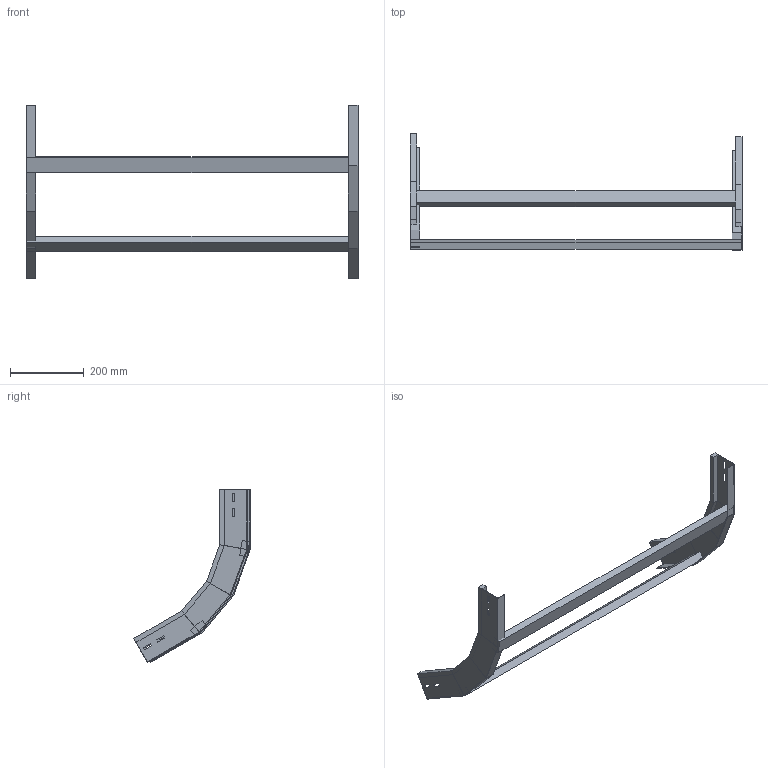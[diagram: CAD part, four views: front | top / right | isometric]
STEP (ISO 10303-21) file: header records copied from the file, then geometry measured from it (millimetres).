
FILE_DESCRIPTION (( 'STEP AP214' ), '1' );
FILE_NAME ('A2X40B3C900XX.step', '2025-04-02T09:36:49', ( '' ), ( '' ), 'SwSTEP 2.0', 'SolidWorks 2023', '' );
FILE_SCHEMA (( 'AUTOMOTIVE_DESIGN' ));
Length unit declared in the file: millimetre
Products named in the file (3): LONGH.SALITA_60°_H75_R300; TRAVERSINO_900; A2X40B3C900XX
Assembly tree (4 placements, depth 2):
  A2X40B3C900XX
    LONGH.SALITA_60°_H75_R300  x2
    TRAVERSINO_900  x2
Bounding box: 900 x 315.85 x 469.15 mm (x, y, z)
Volume: 1871106 mm3; surface area: 481303.6 mm2
Topology: 4 solids, 4 shells, 112 faces, 264 edges, 160 vertices
Faces by surface type: plane 112
Entity records: 1664 total; most frequent: CARTESIAN_POINT 275, ORIENTED_EDGE 264, DIRECTION 258, LINE 132, VECTOR 132, EDGE_CURVE 132, VERTEX_POINT 80, EDGE_LOOP 64
